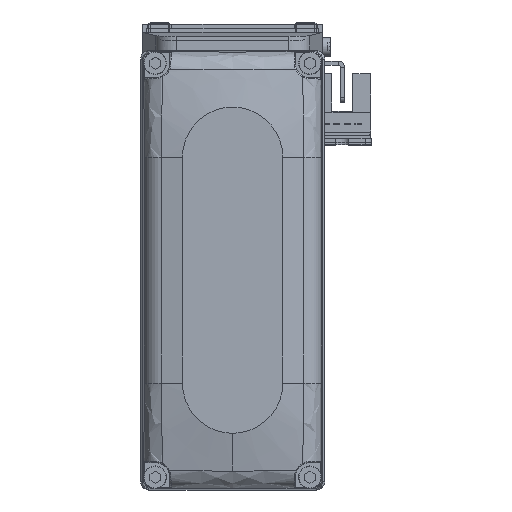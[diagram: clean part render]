
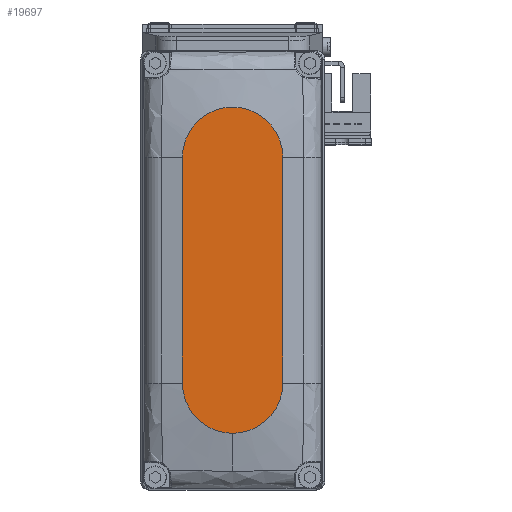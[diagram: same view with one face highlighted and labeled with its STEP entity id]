
A CAD part, top view. The second image highlights one B-rep face of the part: STEP entity #19697.
In plain terms, the highlighted planar face has unit normal (0, 0, 1).
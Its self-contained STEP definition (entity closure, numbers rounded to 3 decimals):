
#1191 = ORIENTED_EDGE ( 'NONE', *, *, #36218, .T. ) ;
#2578 = CIRCLE ( 'NONE', #46590, 12. ) ;
#2668 = PLANE ( 'NONE',  #77933 ) ;
#3002 = CARTESIAN_POINT ( 'NONE',  ( -27., -12., 25. ) ) ;
#8798 = CIRCLE ( 'NONE', #52810, 12. ) ;
#9507 = CARTESIAN_POINT ( 'NONE',  ( 27., 0., 25. ) ) ;
#14632 = CARTESIAN_POINT ( 'NONE',  ( -27., 0., 25. ) ) ;
#17664 = DIRECTION ( 'NONE',  ( 1., 0., 0. ) ) ;
#19697 = ADVANCED_FACE ( 'NONE', ( #56615 ), #2668, .T. ) ;
#20388 = AXIS2_PLACEMENT_3D ( 'NONE', #9507, #33529, #57562 ) ;
#22012 = LINE ( 'NONE', #46013, #37879 ) ;
#23760 = VECTOR ( 'NONE', #27014, 1000. ) ;
#26684 = CARTESIAN_POINT ( 'NONE',  ( 0., 0., 25. ) ) ;
#27014 = DIRECTION ( 'NONE',  ( 1., 0., 0. ) ) ;
#30183 = EDGE_CURVE ( 'NONE', #57525, #77683, #8798, .T. ) ;
#30883 = CARTESIAN_POINT ( 'NONE',  ( -27., -12., 25. ) ) ;
#33529 = DIRECTION ( 'NONE',  ( 0., 0., 1. ) ) ;
#35144 = CARTESIAN_POINT ( 'NONE',  ( 39., 0., 25. ) ) ;
#36218 = EDGE_CURVE ( 'NONE', #74071, #73089, #2578, .T. ) ;
#36567 = EDGE_LOOP ( 'NONE', ( #70541, #1191, #59962, #50881, #77629 ) ) ;
#36797 = EDGE_CURVE ( 'NONE', #69277, #74071, #22012, .T. ) ;
#37541 = EDGE_CURVE ( 'NONE', #77683, #69277, #54329, .T. ) ;
#37879 = VECTOR ( 'NONE', #70032, 1000. ) ;
#38652 = DIRECTION ( 'NONE',  ( 0., 0., 1. ) ) ;
#46013 = CARTESIAN_POINT ( 'NONE',  ( -27., 12., 25. ) ) ;
#46590 = AXIS2_PLACEMENT_3D ( 'NONE', #14632, #38652, #62672 ) ;
#47573 = CARTESIAN_POINT ( 'NONE',  ( 27., 0., 25. ) ) ;
#50693 = DIRECTION ( 'NONE',  ( 0., 0., 1. ) ) ;
#50881 = ORIENTED_EDGE ( 'NONE', *, *, #30183, .T. ) ;
#52586 = CARTESIAN_POINT ( 'NONE',  ( 27., -12., 25. ) ) ;
#52810 = AXIS2_PLACEMENT_3D ( 'NONE', #47573, #71597, #17664 ) ;
#53742 = CARTESIAN_POINT ( 'NONE',  ( 27., 12., 25. ) ) ;
#54329 = CIRCLE ( 'NONE', #20388, 12. ) ;
#56615 = FACE_OUTER_BOUND ( 'NONE', #36567, .T. ) ;
#56950 = LINE ( 'NONE', #3002, #23760 ) ;
#57525 = VERTEX_POINT ( 'NONE', #52586 ) ;
#57562 = DIRECTION ( 'NONE',  ( 1., 0., 0. ) ) ;
#59962 = ORIENTED_EDGE ( 'NONE', *, *, #69067, .T. ) ;
#61013 = CARTESIAN_POINT ( 'NONE',  ( -27., 12., 25. ) ) ;
#62672 = DIRECTION ( 'NONE',  ( 1., 0., 0. ) ) ;
#69067 = EDGE_CURVE ( 'NONE', #73089, #57525, #56950, .T. ) ;
#69277 = VERTEX_POINT ( 'NONE', #53742 ) ;
#70032 = DIRECTION ( 'NONE',  ( -1., 0., 0. ) ) ;
#70541 = ORIENTED_EDGE ( 'NONE', *, *, #36797, .T. ) ;
#71597 = DIRECTION ( 'NONE',  ( 0., 0., 1. ) ) ;
#73089 = VERTEX_POINT ( 'NONE', #30883 ) ;
#74071 = VERTEX_POINT ( 'NONE', #61013 ) ;
#74718 = DIRECTION ( 'NONE',  ( 1., 0., 0. ) ) ;
#77629 = ORIENTED_EDGE ( 'NONE', *, *, #37541, .T. ) ;
#77683 = VERTEX_POINT ( 'NONE', #35144 ) ;
#77933 = AXIS2_PLACEMENT_3D ( 'NONE', #26684, #50693, #74718 ) ;
